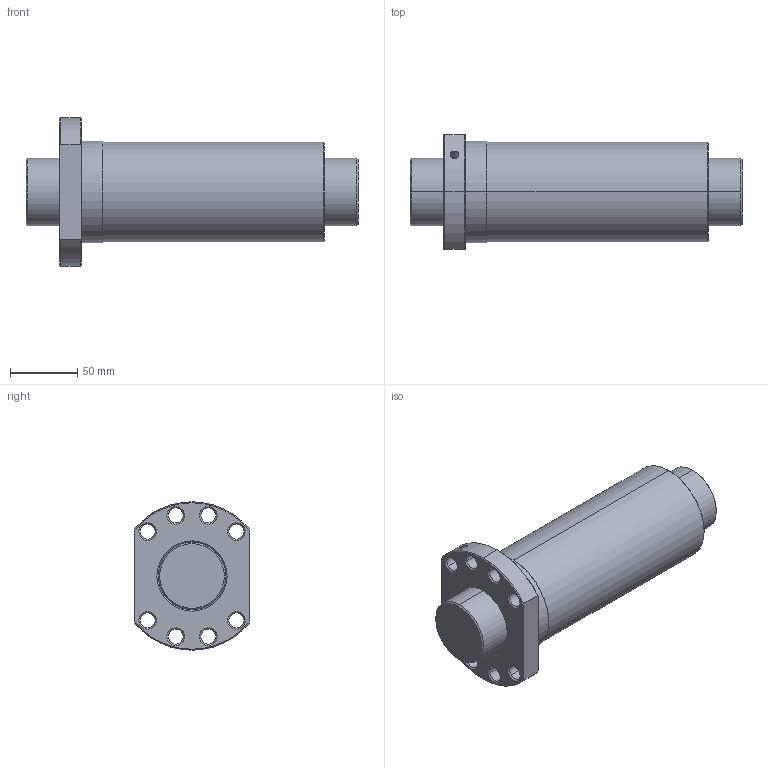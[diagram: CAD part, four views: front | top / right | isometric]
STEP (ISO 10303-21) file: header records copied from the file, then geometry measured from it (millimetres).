
FILE_DESCRIPTION(('no description'),'unknown implementation level');
FILE_NAME('R50_20T3_DDB_246_246_0_023_64.stp',' ',('HIWIN GmbH'),('CADClick - KiM GmbH - www.kimweb.de'),'unknown preprocess','ACIS','unknown authorization');
FILE_SCHEMA(('CONFIG_CONTROL_DESIGN'));
Length unit declared in the file: millimetre
Products named in the file (2): 1; 2
Bounding box: 246 x 85 x 110 mm (x, y, z)
Volume: 993544.3 mm3; surface area: 135570.6 mm2
Topology: 2 solids, 2 shells, 90 faces, 204 edges, 119 vertices
Faces by surface type: cone 52, cylinder 30, plane 8
Entity records: 2677 total; most frequent: CARTESIAN_POINT 496, DIRECTION 484, ORIENTED_EDGE 404, EDGE_CURVE 202, AXIS2_PLACEMENT_3D 200, VERTEX_POINT 119, EDGE_LOOP 111, CIRCLE 108
